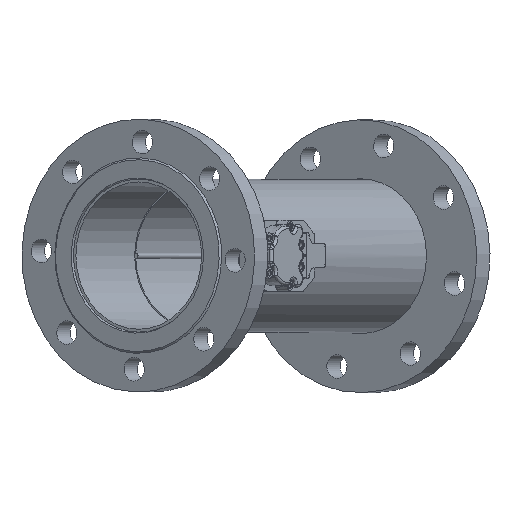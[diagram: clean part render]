
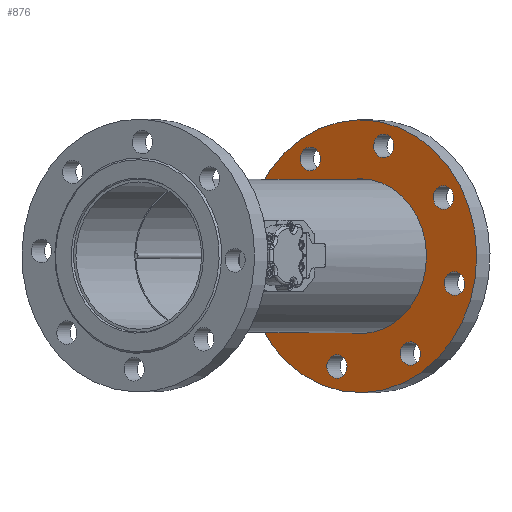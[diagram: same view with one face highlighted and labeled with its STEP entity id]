
A CAD part, top view. The second image highlights one B-rep face of the part: STEP entity #876.
In plain terms, the highlighted planar face has unit normal (-0.522, 0, 0.853) as drawn and (0, 0, -1) by its records, which use the part's own axes.
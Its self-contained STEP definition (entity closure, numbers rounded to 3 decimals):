
#876 = ADVANCED_FACE( '', ( #1773, #1774, #1775, #1776, #1777, #1778, #1779, #1780, #1781, #1782 ), #1783, .T. );
#1773 = FACE_BOUND( '', #5320, .T. );
#1774 = FACE_BOUND( '', #5321, .T. );
#1775 = FACE_BOUND( '', #5322, .T. );
#1776 = FACE_BOUND( '', #5323, .T. );
#1777 = FACE_BOUND( '', #5324, .T. );
#1778 = FACE_BOUND( '', #5325, .T. );
#1779 = FACE_BOUND( '', #5326, .T. );
#1780 = FACE_BOUND( '', #5327, .T. );
#1781 = FACE_BOUND( '', #5328, .T. );
#1782 = FACE_OUTER_BOUND( '', #5329, .T. );
#1783 = PLANE( '', #5330 );
#5320 = EDGE_LOOP( '', ( #7586 ) );
#5321 = EDGE_LOOP( '', ( #7587 ) );
#5322 = EDGE_LOOP( '', ( #7588 ) );
#5323 = EDGE_LOOP( '', ( #7589 ) );
#5324 = EDGE_LOOP( '', ( #7590 ) );
#5325 = EDGE_LOOP( '', ( #7591 ) );
#5326 = EDGE_LOOP( '', ( #7592 ) );
#5327 = EDGE_LOOP( '', ( #7593 ) );
#5328 = EDGE_LOOP( '', ( #7594 ) );
#5329 = EDGE_LOOP( '', ( #7595 ) );
#5330 = AXIS2_PLACEMENT_3D( '', #7596, #7597, #7598 );
#7586 = ORIENTED_EDGE( '', *, *, #8616, .F. );
#7587 = ORIENTED_EDGE( '', *, *, #8316, .F. );
#7588 = ORIENTED_EDGE( '', *, *, #8307, .F. );
#7589 = ORIENTED_EDGE( '', *, *, #8547, .F. );
#7590 = ORIENTED_EDGE( '', *, *, #8723, .F. );
#7591 = ORIENTED_EDGE( '', *, *, #8655, .F. );
#7592 = ORIENTED_EDGE( '', *, *, #8415, .F. );
#7593 = ORIENTED_EDGE( '', *, *, #8707, .F. );
#7594 = ORIENTED_EDGE( '', *, *, #8574, .T. );
#7595 = ORIENTED_EDGE( '', *, *, #8552, .F. );
#7596 = CARTESIAN_POINT( '', ( 85.25, 0., -8.141 ) );
#7597 = DIRECTION( '', ( 0., 0., -1. ) );
#7598 = DIRECTION( '', ( -1., 0., 0. ) );
#8307 = EDGE_CURVE( '', #9340, #9340, #9341, .T. );
#8316 = EDGE_CURVE( '', #9353, #9353, #9354, .T. );
#8415 = EDGE_CURVE( '', #9497, #9497, #9498, .T. );
#8547 = EDGE_CURVE( '', #9681, #9681, #9682, .T. );
#8552 = EDGE_CURVE( '', #9688, #9688, #9689, .T. );
#8574 = EDGE_CURVE( '', #9717, #9717, #9718, .T. );
#8616 = EDGE_CURVE( '', #9771, #9771, #9772, .T. );
#8655 = EDGE_CURVE( '', #9818, #9818, #9819, .T. );
#8707 = EDGE_CURVE( '', #9880, #9880, #9881, .T. );
#8723 = EDGE_CURVE( '', #9897, #9897, #9898, .T. );
#9340 = VERTEX_POINT( '', #11245 );
#9341 = CIRCLE( '', #11246, 13. );
#9353 = VERTEX_POINT( '', #11261 );
#9354 = CIRCLE( '', #11262, 13. );
#9497 = VERTEX_POINT( '', #11485 );
#9498 = CIRCLE( '', #11486, 13. );
#9681 = VERTEX_POINT( '', #11941 );
#9682 = CIRCLE( '', #11942, 13. );
#9688 = VERTEX_POINT( '', #11949 );
#9689 = CIRCLE( '', #11950, 150. );
#9717 = VERTEX_POINT( '', #12197 );
#9718 = CIRCLE( '', #12198, 85.25 );
#9771 = VERTEX_POINT( '', #12287 );
#9772 = CIRCLE( '', #12288, 13. );
#9818 = VERTEX_POINT( '', #12373 );
#9819 = CIRCLE( '', #12374, 13. );
#9880 = VERTEX_POINT( '', #12494 );
#9881 = CIRCLE( '', #12495, 13. );
#9897 = VERTEX_POINT( '', #12537 );
#9898 = CIRCLE( '', #12538, 13. );
#11245 = CARTESIAN_POINT( '', ( -13., -125., -8.141 ) );
#11246 = AXIS2_PLACEMENT_3D( '', #13171, #13172, #13173 );
#11261 = CARTESIAN_POINT( '', ( -101.388, -88.388, -8.141 ) );
#11262 = AXIS2_PLACEMENT_3D( '', #13183, #13184, #13185 );
#11485 = CARTESIAN_POINT( '', ( -13., 125., -8.141 ) );
#11486 = AXIS2_PLACEMENT_3D( '', #13331, #13332, #13333 );
#11941 = CARTESIAN_POINT( '', ( 75.388, -88.388, -8.141 ) );
#11942 = AXIS2_PLACEMENT_3D( '', #13510, #13511, #13512 );
#11949 = CARTESIAN_POINT( '', ( 150., 0., -8.141 ) );
#11950 = AXIS2_PLACEMENT_3D( '', #13517, #13518, #13519 );
#12197 = CARTESIAN_POINT( '', ( 85.25, 0., -8.141 ) );
#12198 = AXIS2_PLACEMENT_3D( '', #13538, #13539, #13540 );
#12287 = CARTESIAN_POINT( '', ( -138., 0., -8.141 ) );
#12288 = AXIS2_PLACEMENT_3D( '', #13580, #13581, #13582 );
#12373 = CARTESIAN_POINT( '', ( 75.388, 88.388, -8.141 ) );
#12374 = AXIS2_PLACEMENT_3D( '', #13621, #13622, #13623 );
#12494 = CARTESIAN_POINT( '', ( -101.388, 88.388, -8.141 ) );
#12495 = AXIS2_PLACEMENT_3D( '', #13678, #13679, #13680 );
#12537 = CARTESIAN_POINT( '', ( 112., 0., -8.141 ) );
#12538 = AXIS2_PLACEMENT_3D( '', #13687, #13688, #13689 );
#13171 = CARTESIAN_POINT( '', ( 0., -125., -8.141 ) );
#13172 = DIRECTION( '', ( 0., 0., -1. ) );
#13173 = DIRECTION( '', ( -1., 0., 0. ) );
#13183 = CARTESIAN_POINT( '', ( -88.388, -88.388, -8.141 ) );
#13184 = DIRECTION( '', ( 0., 0., -1. ) );
#13185 = DIRECTION( '', ( -1., 0., 0. ) );
#13331 = CARTESIAN_POINT( '', ( 0., 125., -8.141 ) );
#13332 = DIRECTION( '', ( 0., 0., -1. ) );
#13333 = DIRECTION( '', ( -1., 0., 0. ) );
#13510 = CARTESIAN_POINT( '', ( 88.388, -88.388, -8.141 ) );
#13511 = DIRECTION( '', ( 0., 0., -1. ) );
#13512 = DIRECTION( '', ( -1., 0., 0. ) );
#13517 = CARTESIAN_POINT( '', ( 0., 0., -8.141 ) );
#13518 = DIRECTION( '', ( 0., 0., 1. ) );
#13519 = DIRECTION( '', ( 1., 0., 0. ) );
#13538 = CARTESIAN_POINT( '', ( 0., 0., -8.141 ) );
#13539 = DIRECTION( '', ( 0., 0., 1. ) );
#13540 = DIRECTION( '', ( 1., 0., 0. ) );
#13580 = CARTESIAN_POINT( '', ( -125., 0., -8.141 ) );
#13581 = DIRECTION( '', ( 0., 0., -1. ) );
#13582 = DIRECTION( '', ( -1., 0., 0. ) );
#13621 = CARTESIAN_POINT( '', ( 88.388, 88.388, -8.141 ) );
#13622 = DIRECTION( '', ( 0., 0., -1. ) );
#13623 = DIRECTION( '', ( -1., 0., 0. ) );
#13678 = CARTESIAN_POINT( '', ( -88.388, 88.388, -8.141 ) );
#13679 = DIRECTION( '', ( 0., 0., -1. ) );
#13680 = DIRECTION( '', ( -1., 0., 0. ) );
#13687 = CARTESIAN_POINT( '', ( 125., 0., -8.141 ) );
#13688 = DIRECTION( '', ( 0., 0., -1. ) );
#13689 = DIRECTION( '', ( -1., 0., 0. ) );
